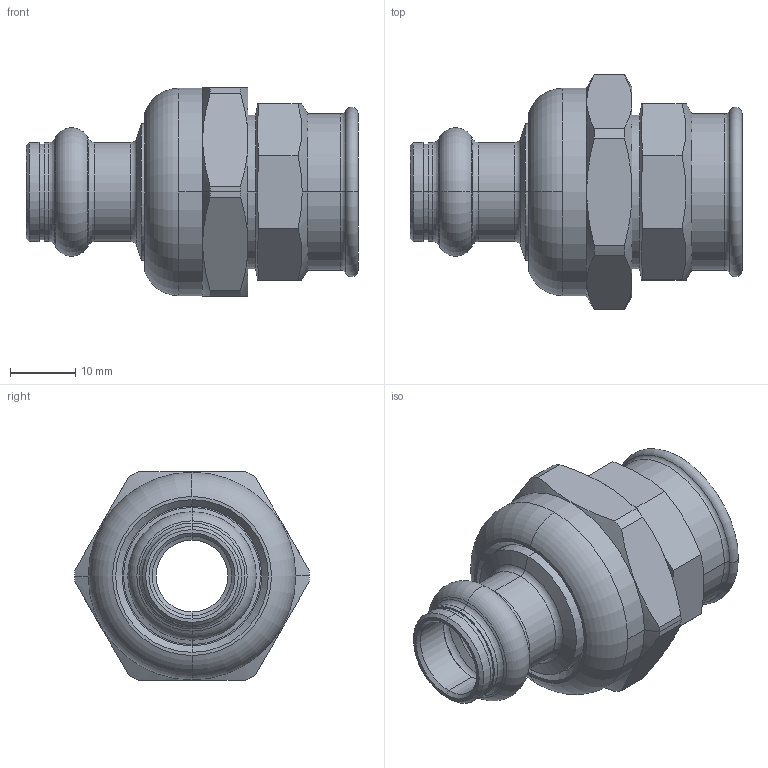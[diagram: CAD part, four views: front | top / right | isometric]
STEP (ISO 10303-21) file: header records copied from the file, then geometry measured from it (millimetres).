
FILE_DESCRIPTION (( 'STEP AP203' ), '1' );
FILE_NAME ('SP4330G Ø12 1-2.STEP', '2017-04-26T14:08:22', ( '' ), ( '' ), 'SwSTEP 2.0', 'SolidWorks 2016', '' );
FILE_SCHEMA (( 'CONFIG_CONTROL_DESIGN' ));
Length unit declared in the file: millimetre
Products named in the file (5): Joints plats_3-4 pouce; SP4330G Ø12 1-2; Ecrou à sertir_G3-4 JPG serti; 4370G-a_M3-4 F1-2; SP4372_12
Assembly tree (4 placements, depth 2):
  SP4330G Ø12 1-2
    4370G-a_M3-4 F1-2
    SP4372_12
    Ecrou à sertir_G3-4 JPG serti
    Joints plats_3-4 pouce
Bounding box: 50.9 x 36 x 32 mm (x, y, z)
Volume: 15051 mm3; surface area: 11993.4 mm2
Topology: 4 solids, 4 shells, 149 faces, 323 edges, 187 vertices
Faces by surface type: cone 55, cylinder 49, plane 27, torus 18
Entity records: 4767 total; most frequent: CARTESIAN_POINT 940, DIRECTION 770, ORIENTED_EDGE 646, AXIS2_PLACEMENT_3D 329, EDGE_CURVE 323, VERTEX_POINT 187, CIRCLE 173, EDGE_LOOP 162
